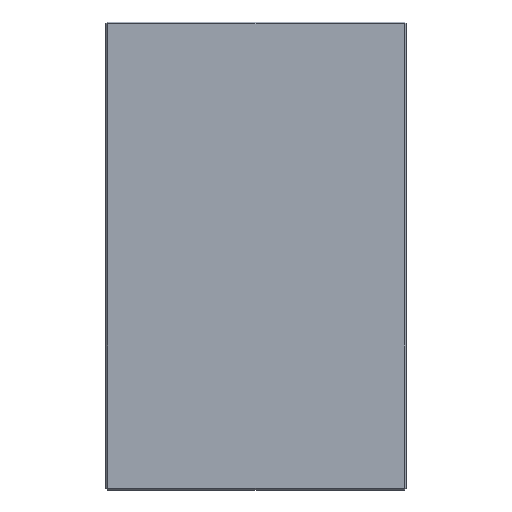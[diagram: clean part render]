
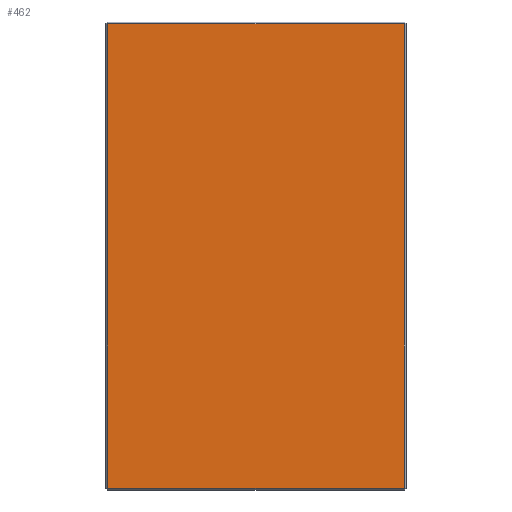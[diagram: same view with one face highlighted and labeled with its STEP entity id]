
A CAD part, top view. The second image highlights one B-rep face of the part: STEP entity #462.
In plain terms, the highlighted planar face has unit normal (0, 0, 1).
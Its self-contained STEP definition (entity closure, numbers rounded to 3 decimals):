
#16 = CARTESIAN_POINT ( 'NONE',  ( -78., -122., 17. ) ) ;
#19 = DIRECTION ( 'NONE',  ( 0., -1., 0. ) ) ;
#49 = VERTEX_POINT ( 'NONE', #143 ) ;
#51 = EDGE_LOOP ( 'NONE', ( #269, #357, #151, #160 ) ) ;
#56 = CARTESIAN_POINT ( 'NONE',  ( 79., -122., 17. ) ) ;
#101 = CARTESIAN_POINT ( 'NONE',  ( -78., 122., 17. ) ) ;
#115 = CARTESIAN_POINT ( 'NONE',  ( 78., 123., 17. ) ) ;
#129 = AXIS2_PLACEMENT_3D ( 'NONE', #447, #220, #480 ) ;
#143 = CARTESIAN_POINT ( 'NONE',  ( 78., 122., 17. ) ) ;
#151 = ORIENTED_EDGE ( 'NONE', *, *, #593, .T. ) ;
#160 = ORIENTED_EDGE ( 'NONE', *, *, #422, .T. ) ;
#167 = PLANE ( 'NONE',  #129 ) ;
#179 = DIRECTION ( 'NONE',  ( 0., 1., 0. ) ) ;
#220 = DIRECTION ( 'NONE',  ( 0., 0., 1. ) ) ;
#269 = ORIENTED_EDGE ( 'NONE', *, *, #427, .T. ) ;
#273 = VECTOR ( 'NONE', #397, 1000. ) ;
#286 = EDGE_CURVE ( 'NONE', #49, #467, #304, .T. ) ;
#304 = LINE ( 'NONE', #312, #273 ) ;
#312 = CARTESIAN_POINT ( 'NONE',  ( -79., 122., 17. ) ) ;
#316 = VERTEX_POINT ( 'NONE', #16 ) ;
#338 = VERTEX_POINT ( 'NONE', #622 ) ;
#357 = ORIENTED_EDGE ( 'NONE', *, *, #286, .T. ) ;
#397 = DIRECTION ( 'NONE',  ( -1., 0., 0. ) ) ;
#422 = EDGE_CURVE ( 'NONE', #316, #338, #426, .T. ) ;
#426 = LINE ( 'NONE', #56, #450 ) ;
#427 = EDGE_CURVE ( 'NONE', #338, #49, #439, .T. ) ;
#439 = LINE ( 'NONE', #115, #459 ) ;
#447 = CARTESIAN_POINT ( 'NONE',  ( 0., 0., 17. ) ) ;
#450 = VECTOR ( 'NONE', #609, 1000. ) ;
#459 = VECTOR ( 'NONE', #179, 1000. ) ;
#462 = ADVANCED_FACE ( 'NONE', ( #615 ), #167, .T. ) ;
#467 = VERTEX_POINT ( 'NONE', #101 ) ;
#480 = DIRECTION ( 'NONE',  ( 1., 0., 0. ) ) ;
#482 = CARTESIAN_POINT ( 'NONE',  ( -78., -123., 17. ) ) ;
#549 = LINE ( 'NONE', #482, #621 ) ;
#593 = EDGE_CURVE ( 'NONE', #467, #316, #549, .T. ) ;
#609 = DIRECTION ( 'NONE',  ( 1., 0., 0. ) ) ;
#615 = FACE_OUTER_BOUND ( 'NONE', #51, .T. ) ;
#621 = VECTOR ( 'NONE', #19, 1000. ) ;
#622 = CARTESIAN_POINT ( 'NONE',  ( 78., -122., 17. ) ) ;
